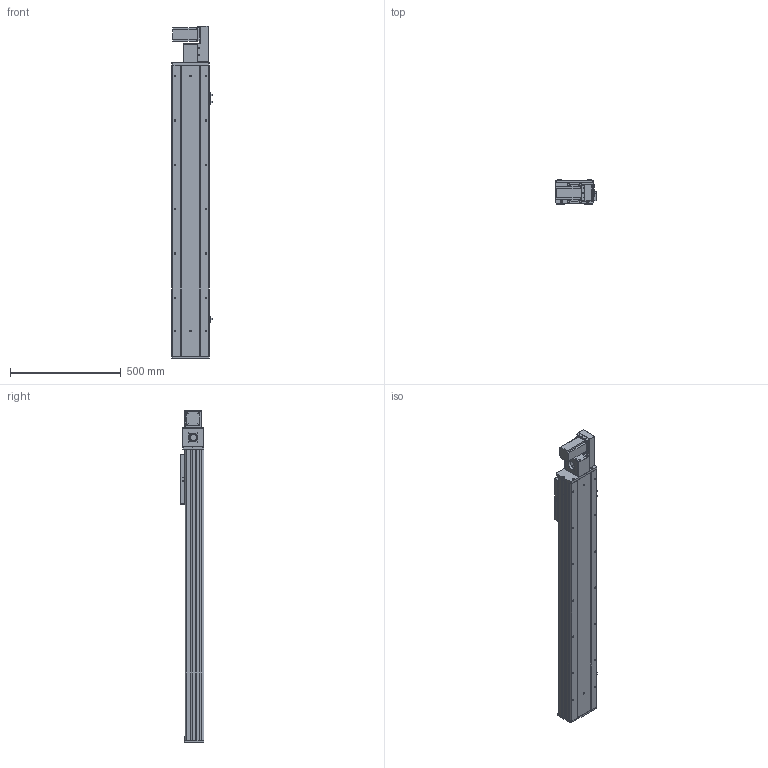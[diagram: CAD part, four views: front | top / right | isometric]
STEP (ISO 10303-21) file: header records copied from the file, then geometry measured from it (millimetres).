
FILE_DESCRIPTION (( 'STEP AP203' ), '1' );
FILE_NAME ('Y170CB-D105-S1000-BR-P400W.STEP', '2020-02-19T09:09:08', ( '微软用户' ), ( '微软中国' ), 'SwSTEP 2.0', 'SolidWorks 2017', '' );
FILE_SCHEMA (( 'CONFIG_CONTROL_DESIGN' ));
Length unit declared in the file: millimetre
Products named in the file (17): 70C-雄赽釱-奻-; 70CB-耜裔啣-; 70CB-詩湍--; Y170CB-陔俋离換覜結え---; san松下电机400不带刹车----; 0C--雄赽釱俋欶-170; 70C--詩湍揤踡え-; 70CB-掛极-; 70CB--耜裔; Y70俋欶BR----; 17B-耜蚾蟀諉啣----; --70CB --喘謫眊楊擘啣-; B-源倛裔啣; 70B喘謫眊----; 0B-萇儂楊擘啣; Y100-135俋离換覜ん--; Y170CB-D105-S1000-BR-P400W
Assembly tree (20 placements, depth 2):
  Y170CB-D105-S1000-BR-P400W
    70B喘謫眊----
    B-源倛裔啣
    17B-耜蚾蟀諉啣----
    0B-萇儂楊擘啣
    san松下电机400不带刹车----
    Y70俋欶BR----
    70CB-掛极-
    --70CB --喘謫眊楊擘啣-
    70CB-耜裔啣-  x2
    70C--詩湍揤踡え-  x2
    70CB--耜裔
    70C-雄赽釱-奻-
    0C--雄赽釱俋欶-170
    70CB-詩湍--
    Y100-135俋离換覜ん--  x3
    Y170CB-陔俋离換覜結え---
Bounding box: 183.5 x 107 x 1497 mm (x, y, z)
Volume: 6532395.5 mm3; surface area: 2333691.1 mm2
Topology: 20 solids, 20 shells, 993 faces, 2657 edges, 1762 vertices
Faces by surface type: cylinder 507, plane 462, cone 24
Entity records: 31459 total; most frequent: CARTESIAN_POINT 5781, DIRECTION 5116, ORIENTED_EDGE 4796, EDGE_CURVE 2398, AXIS2_PLACEMENT_3D 1865, VERTEX_POINT 1592, VECTOR 1386, LINE 1386
